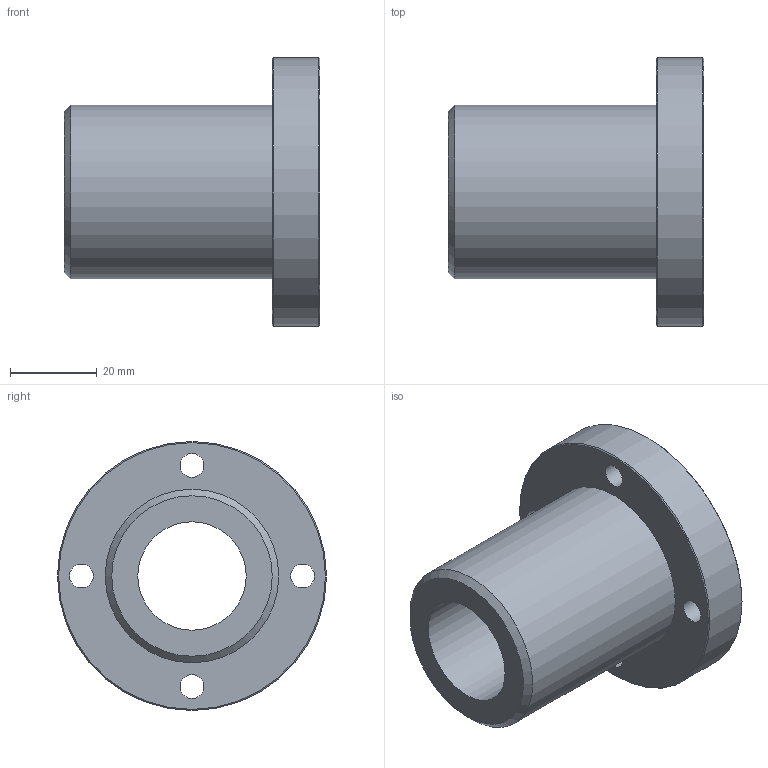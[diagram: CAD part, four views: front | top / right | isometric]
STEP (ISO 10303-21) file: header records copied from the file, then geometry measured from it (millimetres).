
FILE_DESCRIPTION(('STEP AP203'),'1');
FILE_NAME('//192.168.1.1/share/s-4 技術開発/s-4-4_CAD/s-4-4-3_見直し済み/PBC LINEAR修正済み/3D途中/SFPJ/SFPJR/SFPJR25.step','2022-03-24T06:30:49',(' '),(' '),'Spatial InterOp 3D',' ',' ');
FILE_SCHEMA(('CONFIG_CONTROL_DESIGN'));
Length unit declared in the file: millimetre
Products named in the file (1): 1
Bounding box: 59 x 62 x 62 mm (x, y, z)
Volume: 62557.9 mm3; surface area: 18487.7 mm2
Topology: 1 solids, 1 shells, 21 faces, 44 edges, 30 vertices
Faces by surface type: cylinder 11, plane 7, cone 3
Full cylindrical faces by diameter (mm): 5.5 x4, 9 x4, 25 x1, 40 x1, 62 x1
Entity records: 528 total; most frequent: DIRECTION 94, CARTESIAN_POINT 72, EDGE_LOOP 50, ORIENTED_EDGE 50, AXIS2_PLACEMENT_3D 47, FACE_OUTER_BOUND 32, EDGE_CURVE 25, VERTEX_POINT 25
